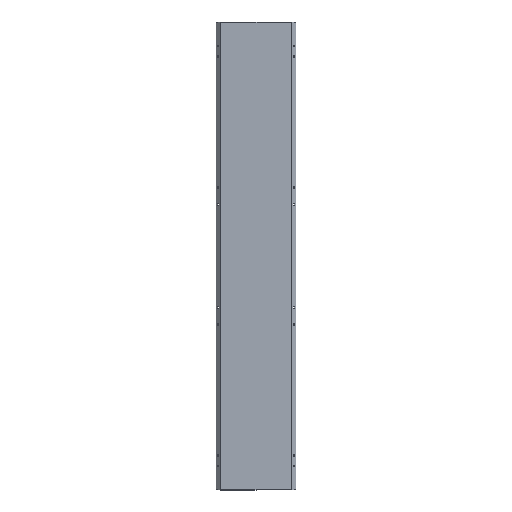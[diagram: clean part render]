
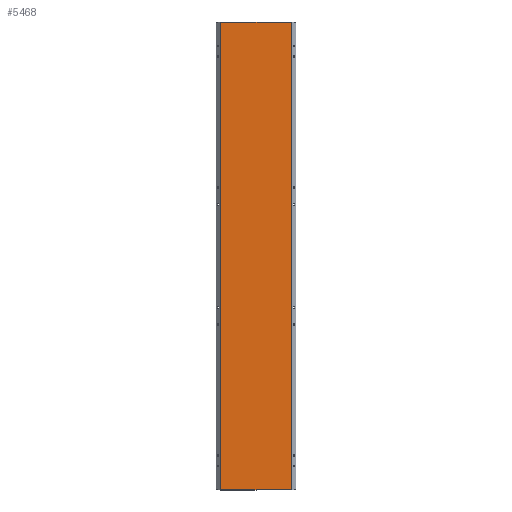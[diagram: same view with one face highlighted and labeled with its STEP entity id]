
A CAD part, top view. The second image highlights one B-rep face of the part: STEP entity #5468.
In plain terms, the highlighted planar face has unit normal (0, 0, 1).
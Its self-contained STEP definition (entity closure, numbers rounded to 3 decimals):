
#43 = CARTESIAN_POINT ( 'NONE',  ( 161.5, 1070.5, 0. ) ) ;
#69 = DIRECTION ( 'NONE',  ( 0., 1., 0. ) ) ;
#241 = VERTEX_POINT ( 'NONE', #3681 ) ;
#670 = VECTOR ( 'NONE', #1025, 1000. ) ;
#1025 = DIRECTION ( 'NONE',  ( -1., 0., 0. ) ) ;
#1551 = VECTOR ( 'NONE', #5371, 1000. ) ;
#1615 = VERTEX_POINT ( 'NONE', #6470 ) ;
#1792 = VERTEX_POINT ( 'NONE', #6261 ) ;
#1838 = VECTOR ( 'NONE', #5958, 1000. ) ;
#2243 = EDGE_CURVE ( 'NONE', #1615, #241, #3589, .T. ) ;
#2372 = CARTESIAN_POINT ( 'NONE',  ( 161.5, -1070.5, 0. ) ) ;
#2485 = VERTEX_POINT ( 'NONE', #43 ) ;
#2743 = EDGE_CURVE ( 'NONE', #241, #2485, #3685, .T. ) ;
#2845 = DIRECTION ( 'NONE',  ( -1., 0., 0. ) ) ;
#2925 = EDGE_LOOP ( 'NONE', ( #6542, #5545, #5216, #5315 ) ) ;
#2954 = CARTESIAN_POINT ( 'NONE',  ( -161.5, -1070.5, 0. ) ) ;
#3490 = FACE_OUTER_BOUND ( 'NONE', #2925, .T. ) ;
#3565 = CARTESIAN_POINT ( 'NONE',  ( 0., 0., 0. ) ) ;
#3589 = LINE ( 'NONE', #6578, #1551 ) ;
#3681 = CARTESIAN_POINT ( 'NONE',  ( 161.5, -1070.5, 0. ) ) ;
#3685 = LINE ( 'NONE', #2372, #5379 ) ;
#3920 = EDGE_CURVE ( 'NONE', #2485, #1792, #6074, .T. ) ;
#4791 = AXIS2_PLACEMENT_3D ( 'NONE', #3565, #5922, #2845 ) ;
#4827 = PLANE ( 'NONE',  #4791 ) ;
#5216 = ORIENTED_EDGE ( 'NONE', *, *, #7544, .T. ) ;
#5315 = ORIENTED_EDGE ( 'NONE', *, *, #2243, .T. ) ;
#5371 = DIRECTION ( 'NONE',  ( 1., 0., 0. ) ) ;
#5379 = VECTOR ( 'NONE', #69, 1000. ) ;
#5468 = ADVANCED_FACE ( 'NONE', ( #3490 ), #4827, .F. ) ;
#5545 = ORIENTED_EDGE ( 'NONE', *, *, #3920, .T. ) ;
#5922 = DIRECTION ( 'NONE',  ( 0., 0., -1. ) ) ;
#5958 = DIRECTION ( 'NONE',  ( 0., -1., 0. ) ) ;
#6074 = LINE ( 'NONE', #7301, #670 ) ;
#6261 = CARTESIAN_POINT ( 'NONE',  ( -161.5, 1070.5, 0. ) ) ;
#6470 = CARTESIAN_POINT ( 'NONE',  ( -161.5, -1070.5, 0. ) ) ;
#6542 = ORIENTED_EDGE ( 'NONE', *, *, #2743, .T. ) ;
#6578 = CARTESIAN_POINT ( 'NONE',  ( -161.5, -1070.5, 0. ) ) ;
#7301 = CARTESIAN_POINT ( 'NONE',  ( -161.5, 1070.5, 0. ) ) ;
#7544 = EDGE_CURVE ( 'NONE', #1792, #1615, #7819, .T. ) ;
#7819 = LINE ( 'NONE', #2954, #1838 ) ;
